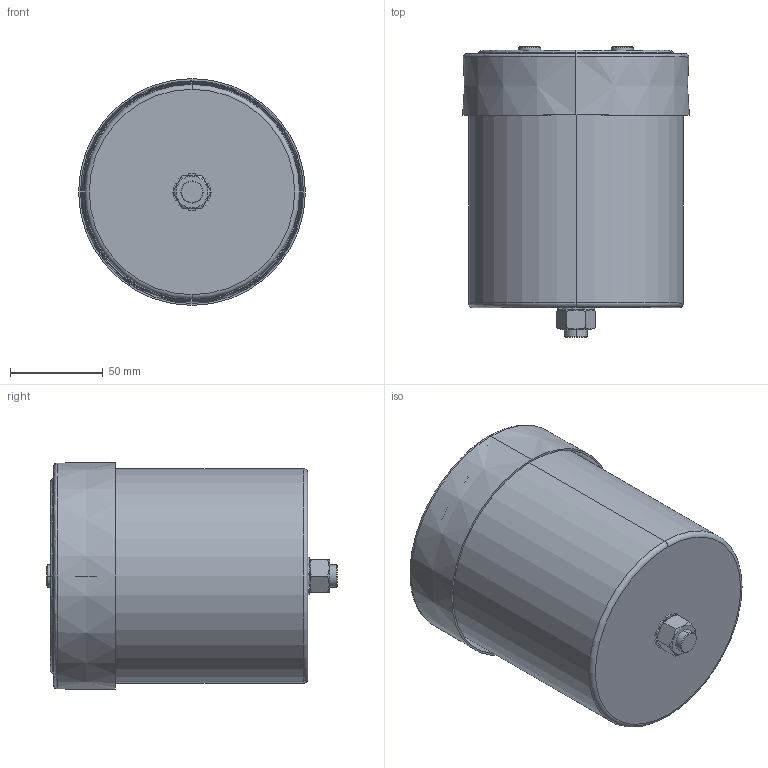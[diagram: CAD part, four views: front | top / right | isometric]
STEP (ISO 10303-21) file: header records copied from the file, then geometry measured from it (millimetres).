
FILE_DESCRIPTION (( 'STEP AP203' ), '1' );
FILE_NAME ('B25680Cx_116x139_141.STEP', '2021-09-13T08:51:44', ( '' ), ( '' ), 'SwSTEP 2.0', 'SolidWorks 2017', '' );
FILE_SCHEMA (( 'CONFIG_CONTROL_DESIGN' ));
Length unit declared in the file: millimetre
Products named in the file (1): B25680Cx_116x139_141
Bounding box: 122.58 x 157 x 122.58 mm (x, y, z)
Volume: 146528.6 mm3; surface area: 217391.4 mm2
Topology: 1 solids, 7 shells, 577 faces, 1430 edges, 903 vertices
Faces by surface type: plane 209, cylinder 168, bspline 83, cone 75, torus 42
Entity records: 20405 total; most frequent: CARTESIAN_POINT 6993, ORIENTED_EDGE 2834, DIRECTION 2774, EDGE_CURVE 1417, AXIS2_PLACEMENT_3D 1124, VERTEX_POINT 903, EDGE_LOOP 640, CIRCLE 629
